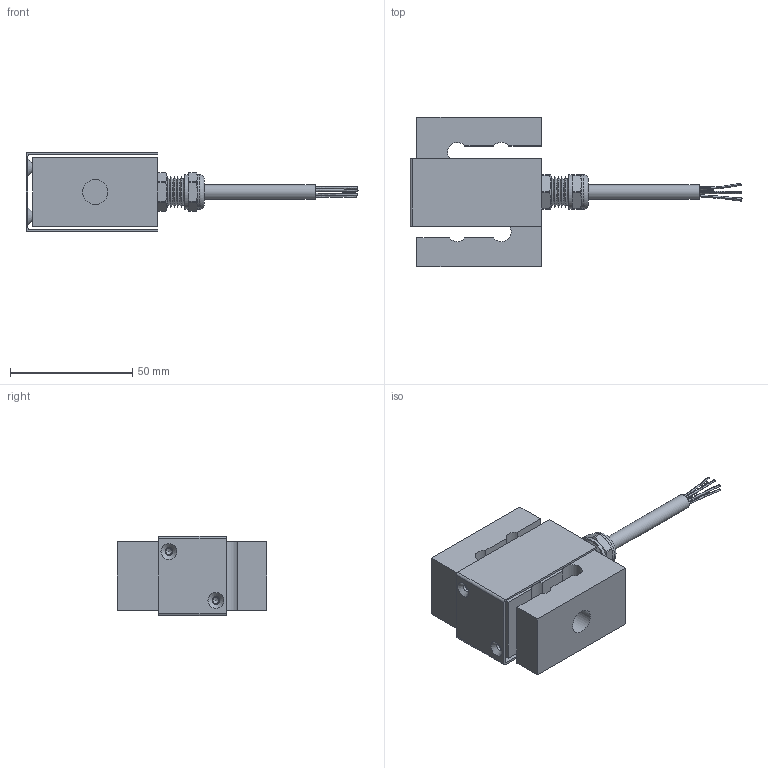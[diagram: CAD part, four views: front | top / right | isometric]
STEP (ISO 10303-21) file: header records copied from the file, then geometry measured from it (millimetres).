
FILE_DESCRIPTION(/* description */ (''),/* implementation_level */ '2;1');
FILE_NAME(/* name */ 'F:/Flintec Files/Datasheets/ut4-datasheet-en/Links/0086751 UXT-1000kg.step',/* time_stamp */ '2021-02-04T11:21:11+00:00',/* author */ (''),/* organization */ (''),/* preprocessor_version */ 'ST-DEVELOPER v18.1',/* originating_system */ 'Autodesk Translation Framework v9.7.1.1290',/* authorisation */ '');
FILE_SCHEMA (('AUTOMOTIVE_DESIGN { 1 0 10303 214 3 1 1 }'));
Length unit declared in the file: millimetre
Products named in the file (5): 0086751; 0042350; 0080123; 0084559; Component10
Assembly tree (4 placements, depth 2):
  0086751
    0042350
    0080123
    0084559
    Component10
Bounding box: 135.68 x 61 x 32.52 mm (x, y, z)
Volume: 79514 mm3; surface area: 28697.7 mm2
Topology: 5 solids, 5 shells, 594 faces, 1334 edges, 878 vertices
Faces by surface type: plane 251, bspline 156, cylinder 135, cone 49, torus 3
Full cylindrical faces by diameter (mm): 0.5 x99, 2.5 x2, 3.1 x2, 6 x1, 7.62 x2, 10.2 x2, 11.316 x2, 12.695 x1, 13.97 x2
Entity records: 22587 total; most frequent: CARTESIAN_POINT 9917, ORIENTED_EDGE 2664, DIRECTION 2267, EDGE_CURVE 1332, VERTEX_POINT 878, AXIS2_PLACEMENT_3D 818, EDGE_LOOP 736, LINE 631
